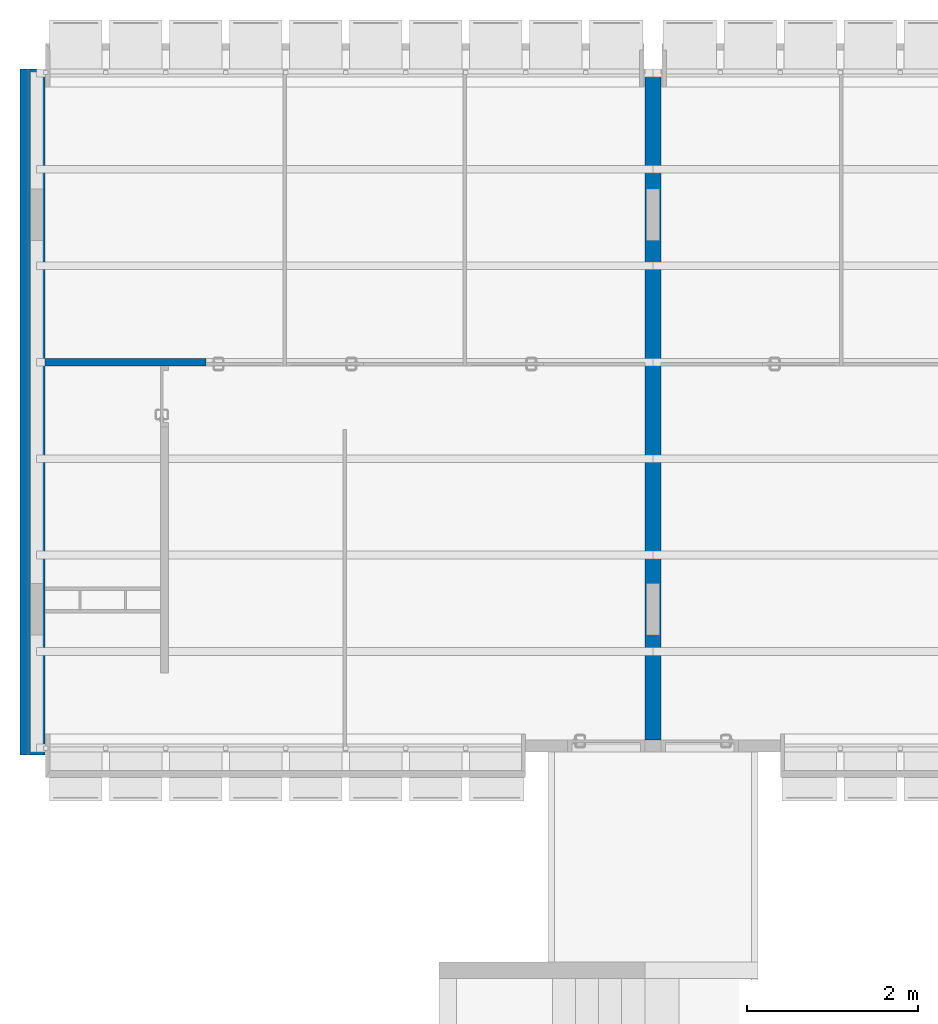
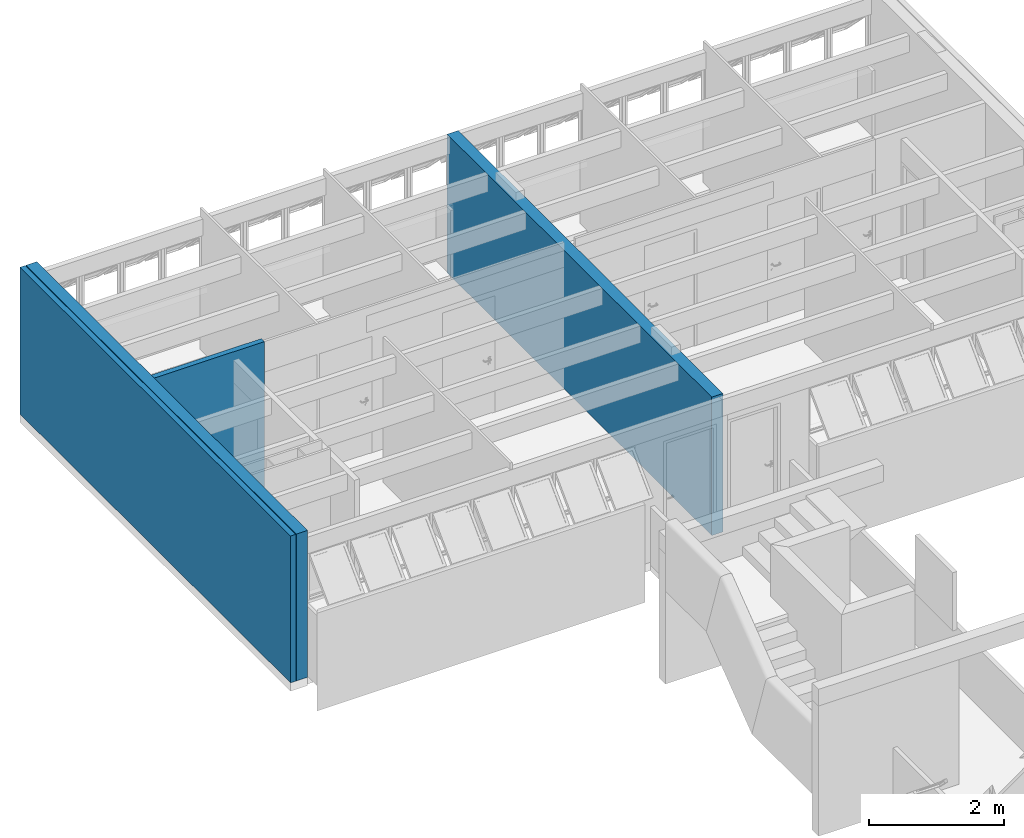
# One storey, part 33 of 41: 4 walls.
"""IFC4 building model written with IfcOpenShell, lengths in millimetres."""

from ifc_helpers import new_model, entity, si_unit, converted_unit, derived_unit, direction, frame, origin_with_axes, place, context, subcontext, project, spatial, line, indexed_curve, outline, extrude, material, layer, layer_set, layer_usage, type_object, element, save


model = new_model("IFC4")

# Units and contexts
model_context = context("Model", 3, precision=0.01, world=origin_with_axes(), true_north=direction((0.0, 1.0)))
body_context = subcontext(model_context, "Body", "Model", "MODEL_VIEW")
ifc_project = project(units=[si_unit("LENGTHUNIT", "METRE", prefix="MILLI"), si_unit("AREAUNIT", "SQUARE_METRE"), si_unit("VOLUMEUNIT", "CUBIC_METRE"), converted_unit("PLANEANGLEUNIT", "DEGREE", entity("IfcPlaneAngleMeasure", 0.0174532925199), si_unit("PLANEANGLEUNIT", "RADIAN"), dimensions=[0, 0, 0, 0, 0, 0, 0]), converted_unit("TIMEUNIT", "Year", entity("IfcTimeMeasure", 31556926.0), si_unit("TIMEUNIT", "SECOND"), dimensions=[0, 0, 1, 0, 0, 0, 0]), si_unit("MASSUNIT", "GRAM", prefix="KILO"), si_unit("THERMODYNAMICTEMPERATUREUNIT", "DEGREE_CELSIUS"), si_unit("LUMINOUSINTENSITYUNIT", "LUMEN"), si_unit("ENERGYUNIT", "JOULE", prefix="MEGA"), derived_unit("THERMALCONDUCTANCEUNIT", [(si_unit("POWERUNIT", "WATT"), 1), (si_unit("LENGTHUNIT", "METRE"), -1), (si_unit("THERMODYNAMICTEMPERATUREUNIT", "KELVIN"), -1)]), derived_unit("SPECIFICHEATCAPACITYUNIT", [(si_unit("ENERGYUNIT", "JOULE"), 1), (si_unit("MASSUNIT", "GRAM", prefix="KILO"), -1), (si_unit("THERMODYNAMICTEMPERATUREUNIT", "KELVIN"), -1)]), derived_unit("MASSDENSITYUNIT", [(si_unit("MASSUNIT", "GRAM", prefix="KILO"), 1), (si_unit("VOLUMEUNIT", "CUBIC_METRE"), -1)])], contexts=[model_context])

# Site, building, storey
site_placement = place(None, origin_with_axes())
site = spatial("IfcSite", under=ifc_project, at=site_placement, Name="Local", CompositionType="ELEMENT")
building_placement = place(site_placement, origin_with_axes())
building = spatial("IfcBuilding", under=site, at=building_placement, Name="Construção", CompositionType="ELEMENT")
storey_placement = place(building_placement, frame((0.0, 0.0, 2650.0), z_axis=(0.0, 0.0, 1.0), x_axis=(1.0, 0.0, 0.0)))
storey = spatial("IfcBuildingStorey", under=building, at=storey_placement, Name="Segundo Pavimento", CompositionType="ELEMENT", Elevation=2650.0)

# Walls
ifc_material = material(Name="GENÉRICO - VEDAÇÃO EXTERNA")
ifc_layer_1 = layer(ifc_material, 190.0, ventilated="UNKNOWN", Name="GENÉRICO - VEDAÇÃO EXTERNA")
ifc_layer_set_1 = layer_set([ifc_layer_1], Name="GENÉRICO - VEDAÇÃO EXTERNA 190")
ifc_layer_usage_1 = layer_usage(ifc_layer_set_1, "AXIS2", "POSITIVE", 0.0)
wall_type_1 = type_object("IfcWallType", Name="GENÉRICO - VEDAÇÃO EXTERNA 190", PredefinedType="NOTDEFINED")
wall_1_placement = place(storey_placement, frame((7480.0, 18035.0, 0.0), z_axis=(0.0, 0.0, 1.0), x_axis=(0.0, 1.0, 0.0)))
element("IfcWall", 1, at=wall_1_placement, inside=storey, type_object=wall_type_1, material=ifc_layer_usage_1, Name="CIRC2-PAREDE-029", PredefinedType="NOTDEFINED", context=body_context, shape_type="SweptSolid", body=[
    extrude(outline(indexed_curve([(0.0, 0.0), (7825.0, 0.0), (7825.0, 190.0), (0.0, 190.0)], segments=[line(1, 2, 3, 4, 1)])), origin_with_axes(), (0.0, 0.0, 1.0), 2500.0),
])
ifc_layer_usage_2 = layer_usage(ifc_layer_set_1, "AXIS2", "POSITIVE", 0.0)
wall_2_placement = place(storey_placement, frame((290.0, 17860.0, 0.0), z_axis=(0.0, 0.0, 1.0), x_axis=(0.0, 1.0, 0.0)))
element("IfcWall", 2, at=wall_2_placement, inside=storey, type_object=wall_type_1, material=ifc_layer_usage_2, Name="APTO7-PAREDE-013", PredefinedType="NOTDEFINED", context=body_context, shape_type="SweptSolid", body=[
    extrude(outline(indexed_curve([(0.0, 0.0), (8000.0, 0.0), (8000.0, 190.0), (0.0, 190.0)], segments=[line(1, 2, 3, 4, 1)])), origin_with_axes(), (0.0, 0.0, 1.0), 2650.0),
])
ifc_layer_2 = layer(ifc_material, 90.0, ventilated="UNKNOWN", Name="GENÉRICO - VEDAÇÃO EXTERNA")
ifc_layer_set_2 = layer_set([ifc_layer_2], Name="GENÉRICO - VEDAÇÃO EXTERNA 90")
ifc_layer_usage_3 = layer_usage(ifc_layer_set_2, "AXIS2", "POSITIVE", 0.0)
wall_type_2 = type_object("IfcWallType", Name="GENÉRICO - VEDAÇÃO EXTERNA 90", PredefinedType="NOTDEFINED")
wall_3_placement = place(storey_placement, frame((290.0, 22394.7804333, 0.0), z_axis=(0.0, 0.0, 1.0), x_axis=(1.0, 0.0, 0.0)))
element("IfcWall", 3, at=wall_3_placement, inside=storey, type_object=wall_type_2, material=ifc_layer_usage_3, Name="APTO7-PAREDE-019", PredefinedType="NOTDEFINED", context=body_context, shape_type="SweptSolid", body=[
    extrude(outline(indexed_curve([(0.0, 0.0), (1880.0, 0.0), (1879.99807021, 90.0), (0.0, 90.0)], segments=[line(1, 2, 3, 4, 1)])), origin_with_axes(), (0.0, 0.0, 1.0), 2650.0),
])
ifc_layer_usage_4 = layer_usage(ifc_layer_set_2, "AXIS2", "POSITIVE", 0.0)
wall_4_placement = place(storey_placement, frame((90.0, 17860.0, 0.0), z_axis=(0.0, 0.0, 1.0), x_axis=(0.0, 1.0, 0.0)))
element("IfcWall", 4, at=wall_4_placement, inside=storey, type_object=wall_type_2, material=ifc_layer_usage_4, Name="APTO7-PAREDE-014", PredefinedType="NOTDEFINED", context=body_context, shape_type="SweptSolid", body=[
    extrude(outline(indexed_curve([(0.0, 0.0), (8000.0, 0.0), (8000.0, 90.0), (0.0, 90.0)], segments=[line(1, 2, 3, 4, 1)])), origin_with_axes(), (0.0, 0.0, 1.0), 2650.0),
])

save(model, "model.ifc")
